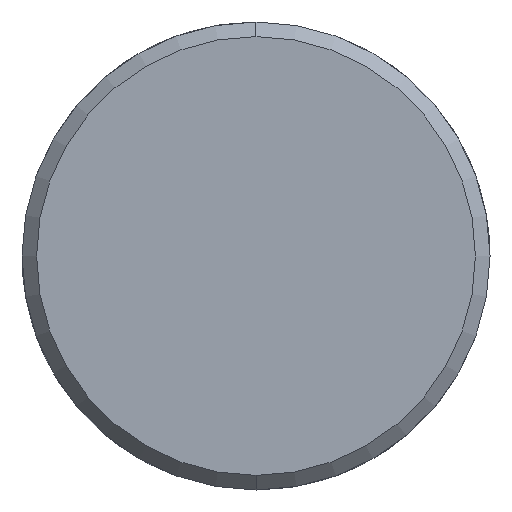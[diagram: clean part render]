
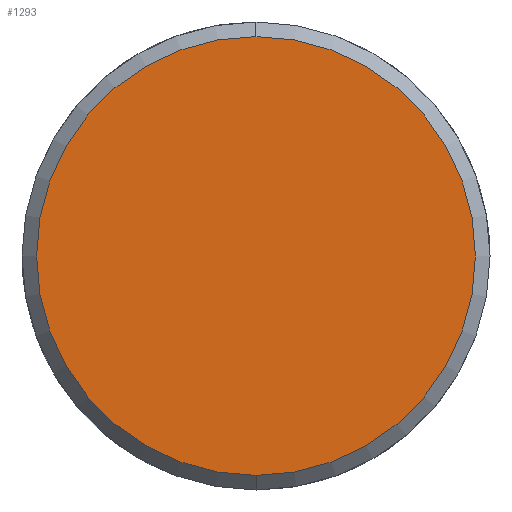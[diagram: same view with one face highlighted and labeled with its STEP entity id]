
A CAD part, left-side view. The second image highlights one B-rep face of the part: STEP entity #1293.
In plain terms, the highlighted planar face has unit normal (-1, 0, 0).
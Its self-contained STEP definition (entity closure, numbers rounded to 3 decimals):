
#1225=CARTESIAN_POINT('Vertex',(-6.,0.,-15.)) ;
#1228=CARTESIAN_POINT('Axis2P3D Location',(-6.,0.,0.)) ;
#1232=CARTESIAN_POINT('Vertex',(-6.,15.,0.)) ;
#1235=CARTESIAN_POINT('Axis2P3D Location',(-6.,0.,0.)) ;
#1239=CARTESIAN_POINT('Vertex',(-6.,0.,15.)) ;
#1261=CARTESIAN_POINT('Axis2P3D Location',(-6.,0.,0.)) ;
#1265=CARTESIAN_POINT('Vertex',(-6.,-15.,0.)) ;
#1268=CARTESIAN_POINT('Axis2P3D Location',(-6.,0.,0.)) ;
#1282=CARTESIAN_POINT('Axis2P3D Location',(-6.,0.,0.)) ;
#1229=DIRECTION('Axis2P3D Direction',(1.,0.,-0.)) ;
#1236=DIRECTION('Axis2P3D Direction',(1.,0.,-0.)) ;
#1262=DIRECTION('Axis2P3D Direction',(1.,0.,-0.)) ;
#1269=DIRECTION('Axis2P3D Direction',(1.,0.,-0.)) ;
#1283=DIRECTION('Axis2P3D Direction',(1.,0.,-0.)) ;
#1284=DIRECTION('Axis2P3D XDirection',(-0.,0.,-1.)) ;
#1230=AXIS2_PLACEMENT_3D('Circle Axis2P3D',#1228,#1229,$) ;
#1237=AXIS2_PLACEMENT_3D('Circle Axis2P3D',#1235,#1236,$) ;
#1263=AXIS2_PLACEMENT_3D('Circle Axis2P3D',#1261,#1262,$) ;
#1270=AXIS2_PLACEMENT_3D('Circle Axis2P3D',#1268,#1269,$) ;
#1285=AXIS2_PLACEMENT_3D('Plane Axis2P3D',#1282,#1283,#1284) ;
#1288=ORIENTED_EDGE('',*,*,#1234,.F.) ;
#1289=ORIENTED_EDGE('',*,*,#1272,.F.) ;
#1290=ORIENTED_EDGE('',*,*,#1267,.F.) ;
#1291=ORIENTED_EDGE('',*,*,#1241,.F.) ;
#1293=ADVANCED_FACE('351-20X66X180',(#1292),#1286,.F.) ;
#1231=CIRCLE('generated circle',#1230,15.) ;
#1238=CIRCLE('generated circle',#1237,15.) ;
#1264=CIRCLE('generated circle',#1263,15.) ;
#1271=CIRCLE('generated circle',#1270,15.) ;
#1234=EDGE_CURVE('',#1226,#1233,#1231,.T.) ;
#1241=EDGE_CURVE('',#1233,#1240,#1238,.T.) ;
#1267=EDGE_CURVE('',#1240,#1266,#1264,.T.) ;
#1272=EDGE_CURVE('',#1266,#1226,#1271,.T.) ;
#1287=EDGE_LOOP('',(#1288,#1289,#1290,#1291)) ;
#1292=FACE_OUTER_BOUND('',#1287,.T.) ;
#1286=PLANE('Plane',#1285) ;
#1226=VERTEX_POINT('',#1225) ;
#1233=VERTEX_POINT('',#1232) ;
#1240=VERTEX_POINT('',#1239) ;
#1266=VERTEX_POINT('',#1265) ;
